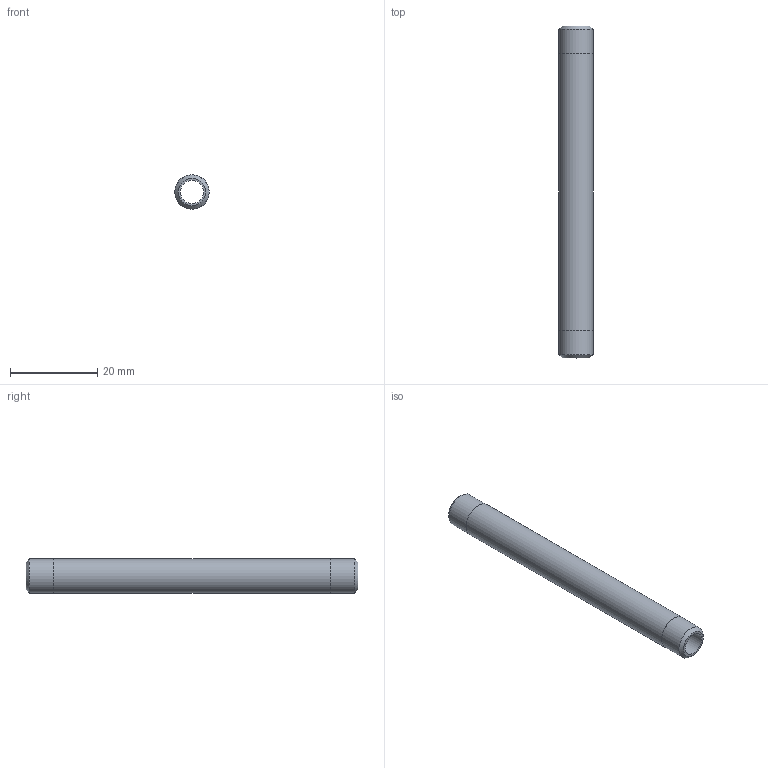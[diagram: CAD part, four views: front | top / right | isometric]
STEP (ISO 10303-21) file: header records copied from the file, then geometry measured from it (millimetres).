
FILE_DESCRIPTION(/* description */ (''),/* implementation_level */ '2;1');
FILE_NAME(/* name */ 'C:/Users/drich/Desktop/SSPN16-3 v1.step',/* time_stamp */ '2020-01-04T13:22:26-06:00',/* author */ (''),/* organization */ (''),/* preprocessor_version */ 'ST-DEVELOPER v18',/* originating_system */ 'Autodesk Translation Framework v8.12.0.6',/* authorisation */ '');
FILE_SCHEMA (('AUTOMOTIVE_DESIGN { 1 0 10303 214 3 1 1 }'));
Length unit declared in the file: inch
Products named in the file (1): SSPN16-3
Bounding box: 7.92 x 76.2 x 7.92 mm (x, y, z)
Volume: 2050.5 mm3; surface area: 3196.7 mm2
Topology: 1 solids, 1 shells, 10 faces, 24 edges, 18 vertices
Faces by surface type: cylinder 4, plane 4, cone 2
Full cylindrical faces by diameter (mm): 5.309 x1, 7.874 x2, 7.925 x1
Entity records: 353 total; most frequent: DIRECTION 64, CARTESIAN_POINT 53, ORIENTED_EDGE 48, AXIS2_PLACEMENT_3D 29, EDGE_CURVE 24, CIRCLE 18, VERTEX_POINT 18, EDGE_LOOP 14
